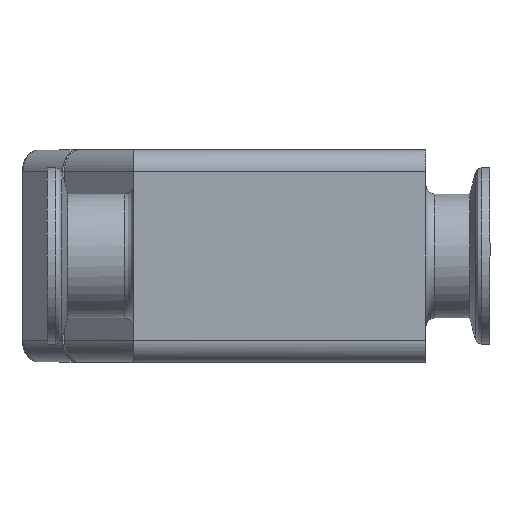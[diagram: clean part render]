
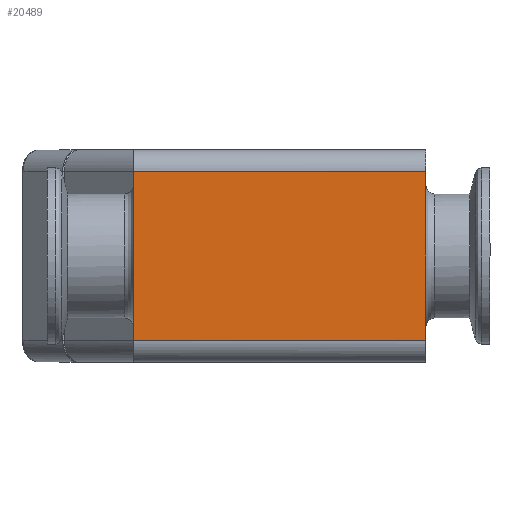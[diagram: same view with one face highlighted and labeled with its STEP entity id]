
A CAD part, front view. The second image highlights one B-rep face of the part: STEP entity #20489.
In plain terms, the highlighted free-form (B-spline) face has degree [1, 1] with [2, 2] control points.
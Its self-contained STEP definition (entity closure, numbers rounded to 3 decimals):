
#20417=CARTESIAN_POINT('V12',(0.0,0.0,5.0));
#20418=VERTEX_POINT('V12',#20417);
#20432=CARTESIAN_POINT('V22',(66.0,0.,5.)
   );
#20433=VERTEX_POINT('V22',#20432);
#20434=CARTESIAN_POINT('E32',(0.0,0.0,5.0));
#20435=CARTESIAN_POINT('E32',(66.0,0.,5.)
   );
#20436=B_SPLINE_CURVE_WITH_KNOTS('E32',1,(#20434,#20435),
   .POLYLINE_FORM.,.F.,.U.,(2,2),(2.0,10.403),
   .UNSPECIFIED.);
#20437=EDGE_CURVE('E32',#20418,#20433,#20436,.T.);
#20462=CARTESIAN_POINT('F28',(0.0,0.0,0.0));
#20463=CARTESIAN_POINT('F28',(66.0,0.,0.0));
#20464=CARTESIAN_POINT('F28',(0.0,0.0,48.0));
#20465=CARTESIAN_POINT('F28',(66.0,0.,48.0));
#20466=B_SPLINE_SURFACE_WITH_KNOTS('F28',1,1,((#20462,#20464),(
   #20463,#20465)),.PLANE_SURF.,.F.,.F.,.U.,(2,2),(2,2),(0.0,
   1.375),(0.0,1.0),.UNSPECIFIED.);
#20467=CARTESIAN_POINT('V21',(66.0,0.,43.0));
#20468=VERTEX_POINT('V21',#20467);
#20469=CARTESIAN_POINT('V13',(0.0,0.0,43.0));
#20470=VERTEX_POINT('V13',#20469);
#20471=CARTESIAN_POINT('E30',(66.0,0.,43.0));
#20472=CARTESIAN_POINT('E30',(0.0,0.0,43.0));
#20473=B_SPLINE_CURVE_WITH_KNOTS('E30',1,(#20471,#20472),
   .POLYLINE_FORM.,.F.,.U.,(2,2),(2.,
   10.403),.UNSPECIFIED.);
#20474=EDGE_CURVE('E30',#20468,#20470,#20473,.T.);
#20475=ORIENTED_EDGE('E30',*,*,#20474,.F.);
#20476=CARTESIAN_POINT('E68',(66.0,0.,5.)
   );
#20477=CARTESIAN_POINT('E68',(66.0,0.,43.0));
#20478=B_SPLINE_CURVE_WITH_KNOTS('E68',1,(#20476,#20477),
   .POLYLINE_FORM.,.F.,.U.,(2,2),(0.104,
   0.896),.UNSPECIFIED.);
#20479=EDGE_CURVE('E68',#20433,#20468,#20478,.T.);
#20480=ORIENTED_EDGE('E68',*,*,#20479,.F.);
#20481=ORIENTED_EDGE('E32',*,*,#20437,.F.);
#20482=CARTESIAN_POINT('E12',(0.0,0.0,5.0));
#20483=CARTESIAN_POINT('E12',(0.0,0.0,43.0));
#20484=B_SPLINE_CURVE_WITH_KNOTS('E12',1,(#20482,#20483),
   .POLYLINE_FORM.,.F.,.U.,(2,2),(0.12,
   1.032),.UNSPECIFIED.);
#20485=EDGE_CURVE('E12',#20418,#20470,#20484,.T.);
#20486=ORIENTED_EDGE('E12',*,*,#20485,.T.);
#20487=EDGE_LOOP('F28',(#20475,#20480,#20481,#20486));
#20488=FACE_OUTER_BOUND('F28',#20487,.F.);
#20489=ADVANCED_FACE('F28',(#20488),#20466,.T.);
